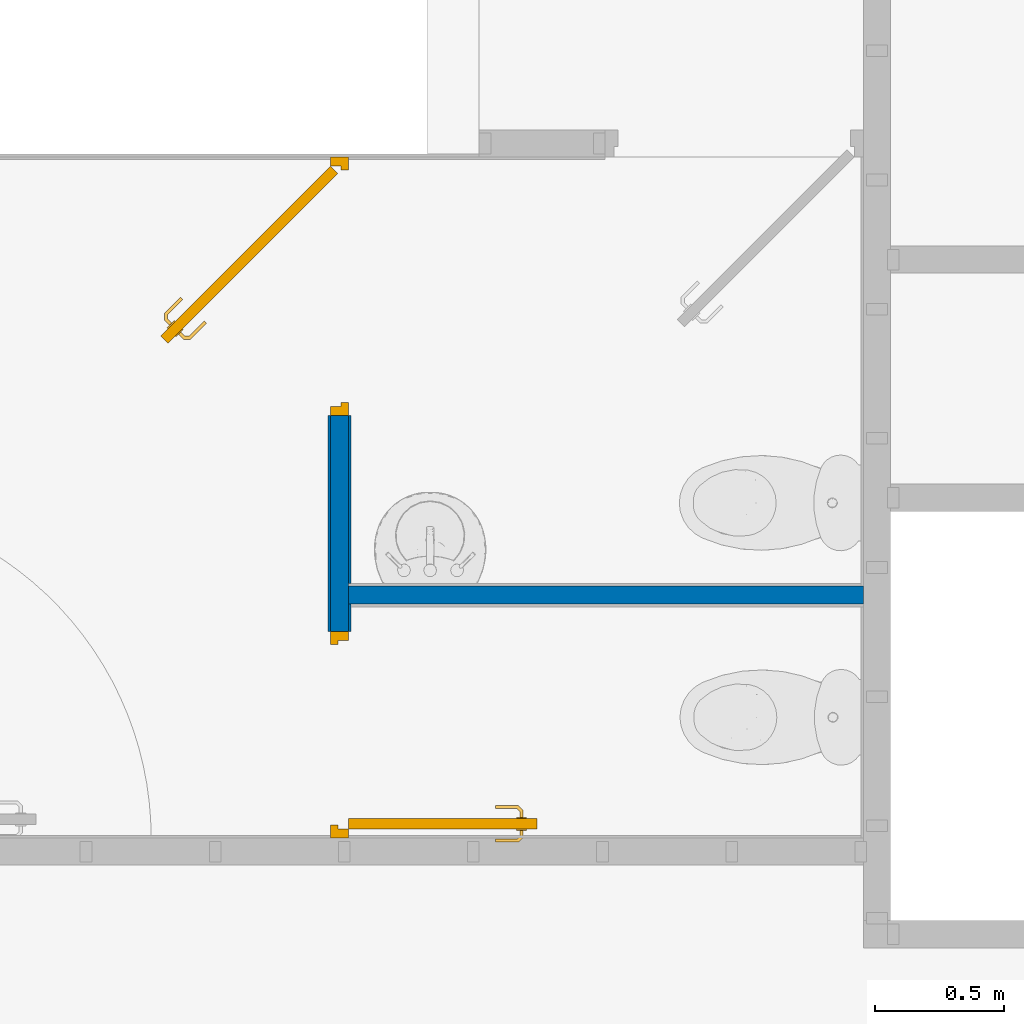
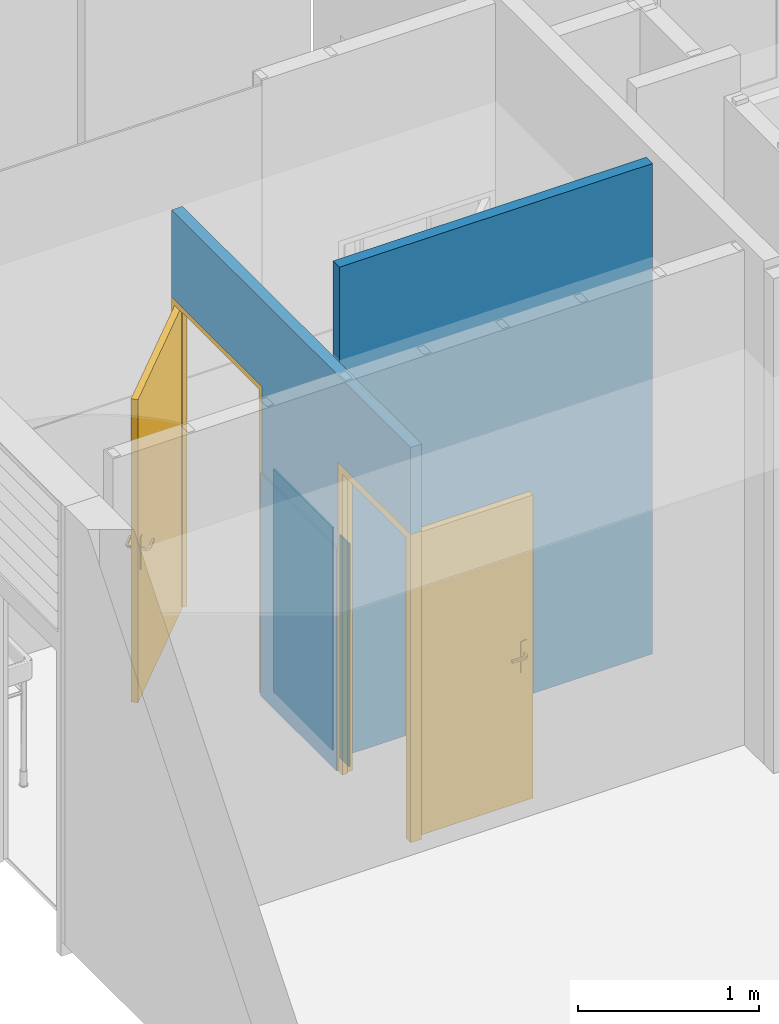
# One storey, part 7 of 20: 5 walls, 2 doors, 2 openings.
"""IFC2X3 building model written with IfcOpenShell, lengths in metres."""

from ifc_helpers import new_model, entity, si_unit, converted_unit, derived_unit, direction, frame, frame_2d, origin, place, context, subcontext, project, spatial, rectangle, extrude, faceted_brep, source, transform, mapped, material, layer, layer_set, layer_usage, type_object, type_shapes, element, fill, save


model = new_model("IFC2X3")

# Units and contexts
model_context = context("Model", 3, precision=1e-05, world=origin(), true_north=direction((6.12303176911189e-17, 1.0)))
body_context = subcontext(model_context, "Body", "Model", "MODEL_VIEW")
ifc_project = project(units=[si_unit("LENGTHUNIT", "METRE"), si_unit("AREAUNIT", "SQUARE_METRE"), si_unit("VOLUMEUNIT", "CUBIC_METRE"), converted_unit("PLANEANGLEUNIT", "DEGREE", entity("IfcRatioMeasure", 0.0174532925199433), si_unit("PLANEANGLEUNIT", "RADIAN"), dimensions=[0, 0, 0, 0, 0, 0, 0]), si_unit("MASSUNIT", "GRAM", prefix="KILO"), derived_unit("MASSDENSITYUNIT", [(si_unit("MASSUNIT", "GRAM", prefix="KILO"), 1), (si_unit("LENGTHUNIT", "METRE"), -3)]), si_unit("TIMEUNIT", "SECOND"), si_unit("FREQUENCYUNIT", "HERTZ"), si_unit("THERMODYNAMICTEMPERATUREUNIT", "DEGREE_CELSIUS"), derived_unit("THERMALTRANSMITTANCEUNIT", [(si_unit("MASSUNIT", "GRAM", prefix="KILO"), 1), (si_unit("THERMODYNAMICTEMPERATUREUNIT", "KELVIN"), -1), (si_unit("TIMEUNIT", "SECOND"), -3)]), derived_unit("VOLUMETRICFLOWRATEUNIT", [(si_unit("LENGTHUNIT", "METRE"), 3), (si_unit("TIMEUNIT", "SECOND"), -1)]), si_unit("ELECTRICCURRENTUNIT", "AMPERE"), si_unit("ELECTRICVOLTAGEUNIT", "VOLT"), si_unit("POWERUNIT", "WATT"), si_unit("FORCEUNIT", "NEWTON", prefix="KILO"), si_unit("ILLUMINANCEUNIT", "LUX"), si_unit("LUMINOUSFLUXUNIT", "LUMEN"), si_unit("LUMINOUSINTENSITYUNIT", "CANDELA"), derived_unit("USERDEFINED", [(si_unit("MASSUNIT", "GRAM", prefix="KILO"), -1), (si_unit("LENGTHUNIT", "METRE"), -2), (si_unit("TIMEUNIT", "SECOND"), 3), (si_unit("LUMINOUSFLUXUNIT", "LUMEN"), 1)]), derived_unit("LINEARVELOCITYUNIT", [(si_unit("LENGTHUNIT", "METRE"), 1), (si_unit("TIMEUNIT", "SECOND"), -1)]), si_unit("PRESSUREUNIT", "PASCAL"), derived_unit("USERDEFINED", [(si_unit("LENGTHUNIT", "METRE"), -2), (si_unit("MASSUNIT", "GRAM", prefix="KILO"), 1), (si_unit("TIMEUNIT", "SECOND"), -2)])], contexts=[model_context])

# Site, building, storey
site_placement = place(None, origin())
site = spatial("IfcSite", under=ifc_project, at=site_placement, Name="Surface", CompositionType="ELEMENT")
building_placement = place(site_placement, origin())
building = spatial("IfcBuilding", under=site, at=building_placement, Name="ExPREF", CompositionType="ELEMENT")
storey_placement = place(building_placement, frame((0.0, 0.0, 4.27)))
storey = spatial("IfcBuildingStorey", under=building, at=storey_placement, Name="R+1", CompositionType="ELEMENT", Elevation=4.27)

# Wall
ifc_material_1 = material(Name="AA-fermacell peint")
ifc_layer_1 = layer(ifc_material_1, 0.0125)
ifc_material_2 = material(Name="AA-isolant plancher")
ifc_layer_2 = layer(ifc_material_2, 0.045)
ifc_layer_3 = layer(ifc_material_1, 0.0125)
ifc_layer_set_1 = layer_set([ifc_layer_1, ifc_layer_2, ifc_layer_3], Name="Mur de base:Générique - Int. 70 mm")
ifc_layer_usage_1 = layer_usage(ifc_layer_set_1, "AXIS2", "NEGATIVE", 0.035)
wall_type_1 = type_object("IfcWallType", Name="Mur de base:Générique - Int. 70 mm", PredefinedType="STANDARD", material=ifc_layer_set_1)
wall_1_placement = place(storey_placement, frame((49.4372436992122, -188.81506962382, 0.0), z_axis=(0.0, 0.0, 1.0), x_axis=(-1.0, 0.0, 0.0)))
element("IfcWallStandardCase", 1, at=wall_1_placement, inside=storey, type_object=wall_type_1, material=ifc_layer_usage_1, Name="Mur de base:Générique - Int. 70 mm", ObjectType="Mur de base:Générique - Int. 70 mm", context=body_context, shape_type="SweptSolid", body=[
    extrude(rectangle(XDim=1.99349999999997, YDim=0.0700000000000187, at=frame_2d((0.996749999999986, 0.0), x_axis=(-1.0, 0.0))), origin(), (0.0, 0.0, 1.0), 3.3),
])

# Wall, openings, doors
ifc_layer_usage_2 = layer_usage(ifc_layer_set_1, "AXIS2", "POSITIVE", -0.035)
wall_2_placement = place(storey_placement, frame((47.4087436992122, -189.75556962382, 0.0), z_axis=(0.0, 0.0, 1.0), x_axis=(0.0, 1.0, 0.0)))
wall_2 = element("IfcWallStandardCase", 2, at=wall_2_placement, inside=storey, type_object=wall_type_1, material=ifc_layer_usage_2, Name="Mur de base:Générique - Int. 70 mm", ObjectType="Mur de base:Générique - Int. 70 mm", context=body_context, shape_type="SweptSolid", body=[
    extrude(rectangle(XDim=2.63658136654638, YDim=0.0700000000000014, at=frame_2d((1.31829068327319, 0.0), x_axis=(-1.0, 0.0))), origin(), (0.0, 0.0, 1.0), 2.66),
])
opening_1_placement = place(wall_2_placement, frame((1.6365813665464, -0.035, 0.0)))
opening_1 = element("IfcOpeningElement", 3, at=opening_1_placement, cuts=wall_2, Name="Porte intérieur bois:PP (0.93m x 2.04m):1", ObjectType="Opening", context=body_context, shape_type="SweptSolid", body=[
    extrude(rectangle(XDim=2.075, YDim=1.0, at=frame_2d((1.0375, 0.5), x_axis=(1.0, 0.0))), frame((0.0, 0.0, 0.0), z_axis=(0.0, 1.0, 0.0), x_axis=(0.0, 0.0, 1.0)), (0.0, 0.0, 1.0), 0.07),
])
opening_2_placement = place(wall_2_placement, frame((0.799999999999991, 0.035, 0.0)))
opening_2 = element("IfcOpeningElement", 4, at=opening_2_placement, cuts=wall_2, Name="Porte intérieur bois:PP (0.73m x 2.04m):1", ObjectType="Opening", context=body_context, shape_type="SweptSolid", body=[
    extrude(rectangle(XDim=2.075, YDim=0.799999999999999, at=frame_2d((1.0375, 0.4), x_axis=(1.0, 0.0))), frame((0.0, 0.0, 0.0), z_axis=(0.0, -1.0, 0.0), x_axis=(0.0, 0.0, 1.0)), (0.0, 0.0, 1.0), 0.07),
])
ifc_material_3 = material(Name="AA-Blanc satiné")
door_style_1 = type_object("IfcDoorStyle", Name="PP (0.93m x 2.04m)", ConstructionType="NOTDEFINED", OperationType="SINGLE_SWING_RIGHT", ParameterTakesPrecedence=False, Sizeable=False, material=ifc_material_3)
shared_shape_1 = source(origin(), body_context, "Body", "Brep", [
    faceted_brep([(0.750570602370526, -0.581930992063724, 0.992219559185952), (0.753434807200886, -0.584795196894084, 0.99221955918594), (0.756245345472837, -0.587605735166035, 0.992999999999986), (0.756245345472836, -0.587605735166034, 1.007), (0.75343480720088, -0.584795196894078, 1.00778044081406), (0.75057060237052, -0.581930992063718, 1.00778044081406), (0.747760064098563, -0.579120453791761, 1.007), (0.747760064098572, -0.57912045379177, 0.993000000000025), (0.763659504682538, -0.563221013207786, 1.007), (0.763659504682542, -0.563221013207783, 0.993000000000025), (0.767634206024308, -0.56486738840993, 1.00778044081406), (0.771684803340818, -0.56654520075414, 1.00778044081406), (0.771684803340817, -0.543654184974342, 1.00778044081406), (0.767634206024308, -0.545331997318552, 1.00778044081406), (0.775659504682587, -0.568191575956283, 1.007), (0.775659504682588, -0.568191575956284, 0.992999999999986), (0.771684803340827, -0.566545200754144, 0.99221955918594), (0.767634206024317, -0.564867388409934, 0.992219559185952), (0.767634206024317, -0.545331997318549, 0.992219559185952), (0.771684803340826, -0.543654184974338, 0.99221955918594), (0.763659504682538, -0.546978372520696, 1.007), (0.763659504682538, -0.546978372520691, 0.993000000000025), (0.775659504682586, -0.542007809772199, 1.007), (0.775659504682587, -0.542007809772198, 0.992999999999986), (0.708090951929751, -0.485788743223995, 1.00778044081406), (0.710955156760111, -0.482924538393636, 1.00778044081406), (0.713765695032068, -0.480114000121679, 1.007), (0.713765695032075, -0.480114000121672, 0.992999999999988), (0.710955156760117, -0.48292453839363, 0.99221955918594), (0.708090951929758, -0.485788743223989, 0.992219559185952), (0.705280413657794, -0.488599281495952, 0.993000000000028), (0.705280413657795, -0.488599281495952, 1.007), (0.734469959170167, -0.517788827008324, 1.007), (0.734469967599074, -0.517788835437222, 0.993000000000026), (0.739294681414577, -0.51412826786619, 1.0078786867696), (0.747424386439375, -0.513772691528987, 1.007), (0.747424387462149, -0.513772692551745, 0.992999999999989), (0.739294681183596, -0.514128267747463, 0.992121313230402)], [[[0, 1, 2, 3, 4, 5, 6, 7]], [[8, 9, 7, 6]], [[5, 10, 8, 6]], [[5, 4, 11, 12, 13, 10]], [[3, 14, 11, 4]], [[14, 3, 2, 15]], [[2, 1, 16, 15]], [[1, 0, 17, 18, 19, 16]], [[0, 7, 9, 17]], [[20, 21, 9, 8]], [[8, 10, 13, 20]], [[14, 22, 12, 11]], [[23, 22, 14, 15]], [[15, 16, 19, 23]], [[17, 9, 21, 18]], [[24, 25, 26, 27, 28, 29, 30, 31]], [[21, 20, 32, 31, 30, 33]], [[34, 24, 32]], [[25, 34, 35]], [[13, 32, 20]], [[24, 31, 32]], [[25, 35, 26]], [[35, 12, 22]], [[34, 12, 35]], [[34, 13, 12]], [[34, 32, 13]], [[24, 34, 25]], [[22, 23, 36, 27, 26, 35]], [[37, 28, 36]], [[36, 28, 27]], [[36, 23, 19]], [[18, 33, 37]], [[33, 18, 21]], [[30, 29, 33]], [[37, 29, 28]], [[37, 33, 29]], [[37, 36, 19]], [[18, 37, 19]]]),
    faceted_brep([(0.715215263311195, -0.617286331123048, 1.00778044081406), (0.718079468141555, -0.620150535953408, 1.00778044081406), (0.720890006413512, -0.622961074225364, 1.00699999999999), (0.720890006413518, -0.622961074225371, 0.992999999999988), (0.718079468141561, -0.620150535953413, 0.99221955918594), (0.715215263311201, -0.617286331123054, 0.992219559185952), (0.712404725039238, -0.614475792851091, 0.993000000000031), (0.712404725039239, -0.614475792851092, 1.007), (0.699691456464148, -0.638538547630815, 1.00778044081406), (0.701337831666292, -0.642513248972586, 1.007), (0.698013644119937, -0.634487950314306, 1.00778044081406), (0.678672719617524, -0.634487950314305, 1.00778044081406), (0.676994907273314, -0.638538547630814, 1.00778044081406), (0.696367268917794, -0.630513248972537, 1.007), (0.696367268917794, -0.630513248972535, 0.993000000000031), (0.698013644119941, -0.634487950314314, 0.992219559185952), (0.699691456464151, -0.638538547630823, 0.99221955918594), (0.676994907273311, -0.638538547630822, 0.99221955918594), (0.678672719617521, -0.634487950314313, 0.992219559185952), (0.701337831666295, -0.642513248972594, 0.992999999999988), (0.67534853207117, -0.642513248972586, 1.007), (0.680319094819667, -0.630513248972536, 1.007), (0.680319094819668, -0.630513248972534, 0.993000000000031), (0.675348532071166, -0.642513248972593, 0.992999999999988), (0.613376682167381, -0.580541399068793, 1.007), (0.616187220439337, -0.577730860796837, 1.00778044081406), (0.619051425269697, -0.574866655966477, 1.00778044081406), (0.621861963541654, -0.57205611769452, 1.00699999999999), (0.621861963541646, -0.572056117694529, 0.993000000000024), (0.619051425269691, -0.574866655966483, 0.992219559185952), (0.616187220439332, -0.577730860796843, 0.99221955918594), (0.613376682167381, -0.580541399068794, 0.992999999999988), (0.647429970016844, -0.606109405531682, 1.0078786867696), (0.647113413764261, -0.614278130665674, 1.007), (0.651090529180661, -0.601284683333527, 1.007), (0.651090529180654, -0.601284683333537, 0.993000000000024), (0.64742997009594, -0.606109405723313, 0.992121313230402), (0.64711341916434, -0.61427813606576, 0.992999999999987)], [[[0, 1, 2, 3, 4, 5, 6, 7]], [[2, 1, 8, 9]], [[1, 0, 10, 11, 12, 8]], [[0, 7, 13, 10]], [[14, 13, 7, 6]], [[5, 15, 14, 6]], [[5, 4, 16, 17, 18, 15]], [[3, 19, 16, 4]], [[9, 19, 3, 2]], [[9, 8, 12, 20]], [[10, 13, 21, 11]], [[22, 21, 13, 14]], [[14, 15, 18, 22]], [[16, 19, 23, 17]], [[20, 23, 19, 9]], [[24, 25, 26, 27, 28, 29, 30, 31]], [[32, 25, 33]], [[33, 25, 24]], [[33, 20, 12]], [[11, 34, 32]], [[34, 11, 21]], [[27, 26, 34]], [[32, 26, 25]], [[32, 34, 26]], [[32, 33, 12]], [[11, 32, 12]], [[21, 22, 35, 28, 27, 34]], [[36, 29, 35]], [[30, 36, 37]], [[18, 35, 22]], [[29, 28, 35]], [[30, 37, 31]], [[37, 17, 23]], [[36, 17, 37]], [[36, 18, 17]], [[36, 35, 18]], [[29, 36, 30]], [[23, 20, 33, 24, 31, 37]]]),
    faceted_brep([(0.762609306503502, -0.601040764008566, 0.870000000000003), (0.762609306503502, -0.601040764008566, 1.08), (0.75578767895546, -0.594219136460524, 1.08399601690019), (0.748467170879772, -0.586898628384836, 1.08535898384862), (0.741146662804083, -0.579578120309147, 1.08399601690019), (0.734325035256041, -0.572756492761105, 1.08), (0.73432503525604, -0.572756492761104, 0.870000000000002), (0.741146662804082, -0.579578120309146, 0.866003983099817), (0.748467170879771, -0.586898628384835, 0.86464101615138), (0.755787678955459, -0.594219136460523, 0.866003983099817), (0.752002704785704, -0.583363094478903, 1.08535898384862), (0.759323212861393, -0.590683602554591, 1.08399601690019), (0.766144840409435, -0.597505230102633, 1.08), (0.766144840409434, -0.597505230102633, 0.870000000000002), (0.759323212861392, -0.590683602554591, 0.866003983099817), (0.752002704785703, -0.583363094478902, 0.86464101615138), (0.744682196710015, -0.576042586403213, 0.866003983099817), (0.737860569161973, -0.569220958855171, 0.870000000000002), (0.737860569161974, -0.569220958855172, 1.08), (0.744682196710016, -0.576042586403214, 1.08399601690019)], [[[0, 1, 2, 3, 4, 5, 6, 7, 8, 9]], [[10, 11, 12, 13, 14, 15, 16, 17, 18, 19]], [[4, 19, 18, 5]], [[3, 10, 19, 4]], [[2, 11, 10, 3]], [[2, 1, 12, 11]], [[13, 12, 1, 0]], [[9, 14, 13, 0]], [[8, 15, 14, 9]], [[7, 16, 15, 8]], [[7, 6, 17, 16]], [[17, 6, 5, 18]]]),
    faceted_brep([(0.730789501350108, -0.632860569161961, 0.870000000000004), (0.730789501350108, -0.632860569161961, 1.08), (0.723967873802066, -0.626038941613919, 1.08399601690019), (0.716647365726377, -0.61871843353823, 1.08535898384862), (0.709326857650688, -0.611397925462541, 1.08399601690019), (0.702505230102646, -0.604576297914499, 1.08), (0.702505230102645, -0.604576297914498, 0.870000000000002), (0.709326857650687, -0.61139792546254, 0.866003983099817), (0.716647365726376, -0.618718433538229, 0.86464101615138), (0.723967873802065, -0.626038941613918, 0.866003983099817), (0.73432503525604, -0.629325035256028, 1.08), (0.73432503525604, -0.629325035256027, 0.870000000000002), (0.727503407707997, -0.622503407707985, 0.866003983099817), (0.720182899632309, -0.615182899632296, 0.86464101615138), (0.71286239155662, -0.607862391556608, 0.866003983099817), (0.706040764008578, -0.601040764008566, 0.870000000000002), (0.706040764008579, -0.601040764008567, 1.08), (0.712862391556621, -0.607862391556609, 1.08399601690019), (0.72018289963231, -0.615182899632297, 1.08535898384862), (0.727503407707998, -0.622503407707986, 1.08399601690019)], [[[0, 1, 2, 3, 4, 5, 6, 7, 8, 9]], [[10, 11, 12, 13, 14, 15, 16, 17, 18, 19]], [[9, 12, 11, 0]], [[8, 13, 12, 9]], [[7, 14, 13, 8]], [[7, 6, 15, 14]], [[15, 6, 5, 16]], [[4, 17, 16, 5]], [[3, 18, 17, 4]], [[2, 19, 18, 3]], [[2, 1, 10, 19]], [[11, 10, 1, 0]]]),
    faceted_brep([(0.790893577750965, -0.629325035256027, 2.04), (0.790893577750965, -0.629325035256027, 0.0), (0.133284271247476, 0.0282842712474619, 0.0), (0.133284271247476, 0.0282842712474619, 2.04), (0.762609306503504, -0.657609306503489, 2.04), (0.105000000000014, 0.0, 2.04), (0.105000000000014, 0.0, 0.0), (0.762609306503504, -0.657609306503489, 0.0)], [[[0, 1, 2, 3]], [[4, 5, 6, 7]], [[3, 5, 4, 0]], [[2, 6, 5, 3]], [[1, 7, 6, 2]], [[0, 4, 7, 1]]]),
    faceted_brep([(1.07000000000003, 0.0, 0.0), (1.03500000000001, 0.0, 0.0), (1.03500000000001, 0.04, 0.0), (1.02000000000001, 0.04, 0.0), (1.02000000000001, 0.0699999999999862, 0.0), (1.07000000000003, 0.0699999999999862, 0.0), (1.07000000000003, 0.0699999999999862, 2.07500000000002), (1.07000000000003, 0.0, 2.07500000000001), (1.02000000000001, 0.0699999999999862, 2.025), (0.120000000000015, 0.0699999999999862, 2.025), (0.120000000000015, 0.0699999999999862, 0.0), (0.0699999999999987, 0.0699999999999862, 0.0), (0.0699999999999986, 0.0699999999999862, 2.07500000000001), (1.02000000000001, 0.04, 2.025), (1.03500000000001, 0.04, 2.04), (0.105000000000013, 0.04, 2.04), (0.105000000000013, 0.04, 0.0), (0.120000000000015, 0.04, 0.0), (0.120000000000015, 0.04, 2.025), (1.03500000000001, 0.0, 2.04), (0.0699999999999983, 0.0, 2.07500000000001), (0.0699999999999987, 0.0, 0.0), (0.105000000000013, 0.0, 0.0), (0.105000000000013, 0.0, 2.04)], [[[0, 1, 2, 3, 4, 5]], [[5, 6, 7, 0]], [[4, 8, 9, 10, 11, 12, 6, 5]], [[3, 13, 8, 4]], [[2, 14, 15, 16, 17, 18, 13, 3]], [[1, 19, 14, 2]], [[0, 7, 20, 21, 22, 23, 19, 1]], [[12, 11, 21, 20]], [[21, 11, 10, 17, 16, 22]], [[18, 17, 10, 9]], [[23, 22, 16, 15]], [[6, 12, 20, 7]], [[13, 18, 9, 8]], [[19, 23, 15, 14]]]),
])
type_shapes(door_style_1, [shared_shape_1])
door_1_placement = place(opening_1_placement, frame((1.06999999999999, 0.0699999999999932, 0.0), z_axis=(0.0, 0.0, 1.0), x_axis=(-1.0, 0.0, 0.0)))
door_1 = element("IfcDoor", 5, at=door_1_placement, inside=storey, type_object=door_style_1, material=ifc_material_3, Name="Porte intérieur bois:PP (0.93m x 2.04m)", ObjectType="PP (0.93m x 2.04m)", OverallHeight=2.075, OverallWidth=1.00000000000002, context=body_context, shape_type="MappedRepresentation", body=[
    mapped(shared_shape_1, transform((0.0, 0.0, 0.0), scale=1.0)),
])
fill(opening_1, door_1)
door_style_2 = type_object("IfcDoorStyle", Name="PP (0.73m x 2.04m)", ConstructionType="NOTDEFINED", OperationType="SINGLE_SWING_RIGHT", ParameterTakesPrecedence=False, Sizeable=False, material=ifc_material_3)
shared_shape_2 = source(origin(), body_context, "Body", "Brep", [
    faceted_brep([(0.150000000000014, -0.667974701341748, 0.992219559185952), (0.150000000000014, -0.672025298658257, 0.99221955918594), (0.150000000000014, -0.676000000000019, 0.992999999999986), (0.150000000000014, -0.676000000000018, 1.007), (0.150000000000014, -0.672025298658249, 1.00778044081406), (0.150000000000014, -0.667974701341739, 1.00778044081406), (0.150000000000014, -0.663999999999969, 1.007), (0.150000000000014, -0.663999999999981, 0.993000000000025), (0.172485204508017, -0.663999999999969, 1.007), (0.172485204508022, -0.663999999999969, 0.993000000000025), (0.174131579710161, -0.667974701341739, 1.00778044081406), (0.175809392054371, -0.672025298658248, 1.00778044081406), (0.191995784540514, -0.655838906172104, 1.00778044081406), (0.187945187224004, -0.654161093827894, 1.00778044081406), (0.177455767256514, -0.676000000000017, 1.007), (0.177455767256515, -0.676000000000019, 0.992999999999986), (0.175809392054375, -0.672025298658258, 0.99221955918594), (0.174131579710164, -0.667974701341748, 0.992219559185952), (0.187945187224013, -0.654161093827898, 0.992219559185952), (0.191995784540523, -0.655838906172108, 0.99221955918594), (0.183970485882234, -0.652514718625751, 1.007), (0.183970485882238, -0.652514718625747, 0.993000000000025), (0.195970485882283, -0.657485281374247, 1.007), (0.195970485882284, -0.657485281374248, 0.992999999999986), (0.187945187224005, -0.569954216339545, 1.00778044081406), (0.191995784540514, -0.569954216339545, 1.00778044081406), (0.195970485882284, -0.569954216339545, 1.007), (0.195970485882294, -0.569954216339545, 0.992999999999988), (0.191995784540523, -0.569954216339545, 0.99221955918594), (0.187945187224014, -0.569954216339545, 0.992219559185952), (0.183970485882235, -0.569954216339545, 0.993000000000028), (0.183970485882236, -0.569954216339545, 1.007), (0.183970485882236, -0.611234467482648, 1.007), (0.183970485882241, -0.611234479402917, 0.993000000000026), (0.189970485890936, -0.612057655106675, 1.0078786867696), (0.195970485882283, -0.617554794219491, 1.007), (0.195970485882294, -0.6175547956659, 0.992999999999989), (0.189970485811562, -0.612057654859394, 0.992121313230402)], [[[0, 1, 2, 3, 4, 5, 6, 7]], [[8, 9, 7, 6]], [[5, 10, 8, 6]], [[5, 4, 11, 12, 13, 10]], [[3, 14, 11, 4]], [[14, 3, 2, 15]], [[2, 1, 16, 15]], [[1, 0, 17, 18, 19, 16]], [[0, 7, 9, 17]], [[20, 21, 9, 8]], [[8, 10, 13, 20]], [[14, 22, 12, 11]], [[23, 22, 14, 15]], [[15, 16, 19, 23]], [[17, 9, 21, 18]], [[24, 25, 26, 27, 28, 29, 30, 31]], [[21, 20, 32, 31, 30, 33]], [[34, 24, 32]], [[25, 34, 35]], [[13, 32, 20]], [[24, 31, 32]], [[25, 35, 26]], [[35, 12, 22]], [[34, 12, 35]], [[34, 13, 12]], [[34, 32, 13]], [[24, 34, 25]], [[22, 23, 36, 27, 26, 35]], [[37, 28, 36]], [[36, 28, 27]], [[36, 23, 19]], [[18, 33, 37]], [[33, 18, 21]], [[30, 29, 33]], [[37, 29, 28]], [[37, 33, 29]], [[37, 36, 19]], [[18, 37, 19]]]),
    faceted_brep([(0.100000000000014, -0.667974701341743, 1.00778044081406), (0.100000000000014, -0.672025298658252, 1.00778044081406), (0.100000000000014, -0.676000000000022, 1.00699999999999), (0.100000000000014, -0.676000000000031, 0.992999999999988), (0.100000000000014, -0.67202529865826, 0.99221955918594), (0.100000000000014, -0.667974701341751, 0.992219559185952), (0.100000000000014, -0.663999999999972, 0.993000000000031), (0.100000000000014, -0.663999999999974, 1.007), (0.0739954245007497, -0.672025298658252, 1.00778044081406), (0.0723490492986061, -0.676000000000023, 1.007), (0.07567323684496, -0.667974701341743, 1.00778044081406), (0.061997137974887, -0.654298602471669, 1.00778044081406), (0.0579465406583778, -0.655976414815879, 1.00778044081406), (0.0773196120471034, -0.663999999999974, 1.007), (0.077319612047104, -0.663999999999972, 0.993000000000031), (0.0756732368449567, -0.667974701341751, 0.992219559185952), (0.0739954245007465, -0.67202529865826, 0.99221955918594), (0.0579465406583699, -0.655976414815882, 0.99221955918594), (0.0619971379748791, -0.654298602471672, 0.992219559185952), (0.0723490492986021, -0.676000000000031, 0.992999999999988), (0.0539718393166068, -0.657622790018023, 1.007), (0.0659718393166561, -0.652652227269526, 1.007), (0.0659718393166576, -0.652652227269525, 0.993000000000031), (0.0539718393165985, -0.657622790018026, 0.992999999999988), (0.0539718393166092, -0.569981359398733, 1.007), (0.0579465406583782, -0.569981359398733, 1.00778044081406), (0.0619971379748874, -0.569981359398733, 1.00778044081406), (0.0659718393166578, -0.569981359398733, 1.00699999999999), (0.0659718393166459, -0.569981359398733, 0.993000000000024), (0.0619971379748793, -0.569981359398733, 0.992219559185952), (0.0579465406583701, -0.569981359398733, 0.99221955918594), (0.0539718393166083, -0.569981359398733, 0.992999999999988), (0.0599718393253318, -0.612139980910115, 1.0078786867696), (0.0539718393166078, -0.617692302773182, 1.007), (0.0659718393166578, -0.611316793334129, 1.007), (0.0659718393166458, -0.611316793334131, 0.993000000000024), (0.0599718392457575, -0.612139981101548, 0.992121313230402), (0.0539718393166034, -0.617692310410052, 0.992999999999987)], [[[0, 1, 2, 3, 4, 5, 6, 7]], [[2, 1, 8, 9]], [[1, 0, 10, 11, 12, 8]], [[0, 7, 13, 10]], [[14, 13, 7, 6]], [[5, 15, 14, 6]], [[5, 4, 16, 17, 18, 15]], [[3, 19, 16, 4]], [[9, 19, 3, 2]], [[9, 8, 12, 20]], [[10, 13, 21, 11]], [[22, 21, 13, 14]], [[14, 15, 18, 22]], [[16, 19, 23, 17]], [[20, 23, 19, 9]], [[24, 25, 26, 27, 28, 29, 30, 31]], [[32, 25, 33]], [[33, 25, 24]], [[33, 20, 12]], [[11, 34, 32]], [[34, 11, 21]], [[27, 26, 34]], [[32, 26, 25]], [[32, 34, 26]], [[32, 33, 12]], [[11, 32, 12]], [[21, 22, 35, 28, 27, 34]], [[36, 29, 35]], [[30, 36, 37]], [[18, 35, 22]], [[29, 28, 35]], [[30, 37, 31]], [[37, 17, 23]], [[36, 17, 37]], [[36, 18, 17]], [[36, 35, 18]], [[29, 36, 30]], [[23, 20, 33, 24, 31, 37]]]),
    faceted_brep([(0.145000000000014, -0.69, 0.870000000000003), (0.145000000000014, -0.69, 1.08), (0.145000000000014, -0.680352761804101, 1.08399601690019), (0.145000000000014, -0.67, 1.08535898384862), (0.145000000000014, -0.6596472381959, 1.08399601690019), (0.145000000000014, -0.650000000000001, 1.08), (0.145000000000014, -0.649999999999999, 0.870000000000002), (0.145000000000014, -0.659647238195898, 0.866003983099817), (0.145000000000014, -0.669999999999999, 0.86464101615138), (0.145000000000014, -0.6803527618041, 0.866003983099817), (0.150000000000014, -0.67, 1.08535898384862), (0.150000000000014, -0.680352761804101, 1.08399601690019), (0.150000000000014, -0.69, 1.08), (0.150000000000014, -0.689999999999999, 0.870000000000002), (0.150000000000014, -0.6803527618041, 0.866003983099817), (0.150000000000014, -0.669999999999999, 0.86464101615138), (0.150000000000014, -0.659647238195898, 0.866003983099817), (0.150000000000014, -0.649999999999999, 0.870000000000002), (0.150000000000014, -0.650000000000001, 1.08), (0.150000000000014, -0.6596472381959, 1.08399601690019)], [[[0, 1, 2, 3, 4, 5, 6, 7, 8, 9]], [[10, 11, 12, 13, 14, 15, 16, 17, 18, 19]], [[4, 19, 18, 5]], [[3, 10, 19, 4]], [[2, 11, 10, 3]], [[2, 1, 12, 11]], [[13, 12, 1, 0]], [[9, 14, 13, 0]], [[8, 15, 14, 9]], [[7, 16, 15, 8]], [[7, 6, 17, 16]], [[17, 6, 5, 18]]]),
    faceted_brep([(0.100000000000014, -0.69, 0.870000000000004), (0.100000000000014, -0.69, 1.08), (0.100000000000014, -0.680352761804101, 1.08399601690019), (0.100000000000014, -0.67, 1.08535898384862), (0.100000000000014, -0.659647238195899, 1.08399601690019), (0.100000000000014, -0.650000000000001, 1.08), (0.100000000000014, -0.649999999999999, 0.870000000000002), (0.100000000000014, -0.659647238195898, 0.866003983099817), (0.100000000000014, -0.669999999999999, 0.86464101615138), (0.100000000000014, -0.6803527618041, 0.866003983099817), (0.105000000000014, -0.69, 1.08), (0.105000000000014, -0.689999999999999, 0.870000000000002), (0.105000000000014, -0.6803527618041, 0.866003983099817), (0.105000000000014, -0.669999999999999, 0.86464101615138), (0.105000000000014, -0.659647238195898, 0.866003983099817), (0.105000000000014, -0.649999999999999, 0.870000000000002), (0.105000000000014, -0.65, 1.08), (0.105000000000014, -0.659647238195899, 1.08399601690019), (0.105000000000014, -0.67, 1.08535898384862), (0.105000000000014, -0.680352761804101, 1.08399601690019)], [[[0, 1, 2, 3, 4, 5, 6, 7, 8, 9]], [[10, 11, 12, 13, 14, 15, 16, 17, 18, 19]], [[9, 12, 11, 0]], [[8, 13, 12, 9]], [[7, 14, 13, 8]], [[7, 6, 15, 14]], [[15, 6, 5, 16]], [[4, 17, 16, 5]], [[3, 18, 17, 4]], [[2, 19, 18, 3]], [[2, 1, 10, 19]], [[11, 10, 1, 0]]]),
    faceted_brep([(0.145000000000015, -0.73, 2.04), (0.145000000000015, -0.73, 0.0), (0.145000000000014, 0.0, 0.0), (0.145000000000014, 0.0, 2.04), (0.105000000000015, -0.73, 2.04), (0.105000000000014, 0.0, 2.04), (0.105000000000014, 0.0, 0.0), (0.105000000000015, -0.73, 0.0)], [[[0, 1, 2, 3]], [[4, 5, 6, 7]], [[3, 5, 4, 0]], [[2, 6, 5, 3]], [[1, 7, 6, 2]], [[0, 4, 7, 1]]]),
    faceted_brep([(0.870000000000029, 0.0, 0.0), (0.835000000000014, 0.0, 0.0), (0.835000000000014, 0.04, 0.0), (0.820000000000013, 0.04, 0.0), (0.820000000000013, 0.0699999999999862, 0.0), (0.870000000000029, 0.0699999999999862, 0.0), (0.870000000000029, 0.0699999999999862, 2.07500000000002), (0.870000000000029, 0.0, 2.07500000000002), (0.820000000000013, 0.0699999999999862, 2.025), (0.120000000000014, 0.0699999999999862, 2.025), (0.120000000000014, 0.0699999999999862, 0.0), (0.0699999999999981, 0.0699999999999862, 0.0), (0.0699999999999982, 0.0699999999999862, 2.07500000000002), (0.820000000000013, 0.04, 2.025), (0.835000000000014, 0.04, 2.04), (0.105000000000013, 0.04, 2.04), (0.105000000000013, 0.04, 0.0), (0.120000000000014, 0.04, 0.0), (0.120000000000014, 0.04, 2.025), (0.835000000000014, 0.0, 2.04), (0.0699999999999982, 0.0, 2.07500000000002), (0.0699999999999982, 0.0, 0.0), (0.105000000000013, 0.0, 0.0), (0.105000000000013, 0.0, 2.04)], [[[0, 1, 2, 3, 4, 5]], [[5, 6, 7, 0]], [[4, 8, 9, 10, 11, 12, 6, 5]], [[3, 13, 8, 4]], [[2, 14, 15, 16, 17, 18, 13, 3]], [[1, 19, 14, 2]], [[0, 7, 20, 21, 22, 23, 19, 1]], [[12, 11, 21, 20]], [[21, 11, 10, 17, 16, 22]], [[18, 17, 10, 9]], [[23, 22, 16, 15]], [[6, 12, 20, 7]], [[13, 18, 9, 8]], [[19, 23, 15, 14]]]),
])
type_shapes(door_style_2, [shared_shape_2])
door_2_placement = place(opening_2_placement, frame((-0.870000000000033, -0.0700000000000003, 0.0)))
door_2 = element("IfcDoor", 6, at=door_2_placement, inside=storey, type_object=door_style_2, material=ifc_material_3, Name="Porte intérieur bois:PP (0.73m x 2.04m)", ObjectType="PP (0.73m x 2.04m)", OverallHeight=2.075, OverallWidth=0.800000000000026, context=body_context, shape_type="MappedRepresentation", body=[
    mapped(shared_shape_2, transform((0.0, 0.0, 0.0), scale=1.0)),
])
fill(opening_2, door_2)

# Walls
ifc_material_4 = material(Name="AA-sol carrelage")
ifc_layer_4 = layer(ifc_material_4, 0.01)
ifc_layer_set_2 = layer_set([ifc_layer_4], Name="Mur de base:A-carrelage")
ifc_layer_usage_3 = layer_usage(ifc_layer_set_2, "AXIS2", "NEGATIVE", 0.005)
wall_type_2 = type_object("IfcWallType", Name="Mur de base:A-carrelage", PredefinedType="STANDARD", material=ifc_layer_set_2)
wall_3_placement = place(storey_placement, frame((47.4487436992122, -188.77006962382, 0.0), z_axis=(0.0, 0.0, 1.0), x_axis=(0.0, 1.0, 0.0)))
element("IfcWallStandardCase", 7, at=wall_3_placement, inside=storey, type_object=wall_type_2, material=ifc_layer_usage_3, Name="Mur de base:A-carrelage", ObjectType="Mur de base:A-carrelage", context=body_context, shape_type="SweptSolid", body=[
    extrude(rectangle(XDim=0.65108136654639, YDim=0.00999999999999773, at=frame_2d((0.325540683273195, 0.0), x_axis=(-1.0, 0.0))), origin(), (0.0, 0.0, 1.0), 1.5),
])
ifc_layer_usage_4 = layer_usage(ifc_layer_set_2, "AXIS2", "NEGATIVE", 0.005)
wall_4_placement = place(storey_placement, frame((47.4487436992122, -188.95556962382, 0.0), z_axis=(0.0, 0.0, 1.0), x_axis=(0.0, 1.0, 0.0)))
element("IfcWallStandardCase", 8, at=wall_4_placement, inside=storey, type_object=wall_type_2, material=ifc_layer_usage_4, Name="Mur de base:A-carrelage", ObjectType="Mur de base:A-carrelage", context=body_context, shape_type="SweptSolid", body=[
    extrude(rectangle(XDim=0.105500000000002, YDim=0.00999999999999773, at=frame_2d((0.052750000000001, 0.0), x_axis=(-1.0, 0.0))), origin(), (0.0, 0.0, 1.0), 1.5),
])
ifc_layer_usage_5 = layer_usage(ifc_layer_set_2, "AXIS2", "NEGATIVE", 0.005)
wall_5_placement = place(storey_placement, frame((47.3687436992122, -188.118988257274, 0.0), z_axis=(0.0, 0.0, 1.0), x_axis=(0.0, -1.0, 0.0)))
element("IfcWallStandardCase", 9, at=wall_5_placement, inside=storey, type_object=wall_type_2, material=ifc_layer_usage_5, Name="Mur de base:A-carrelage", ObjectType="Mur de base:A-carrelage", context=body_context, shape_type="SweptSolid", body=[
    extrude(rectangle(XDim=0.836581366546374, YDim=0.00999999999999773, at=frame_2d((0.418290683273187, 0.0), x_axis=(-1.0, 0.0))), origin(), (0.0, 0.0, 1.0), 1.5),
])

save(model, "model.ifc")
